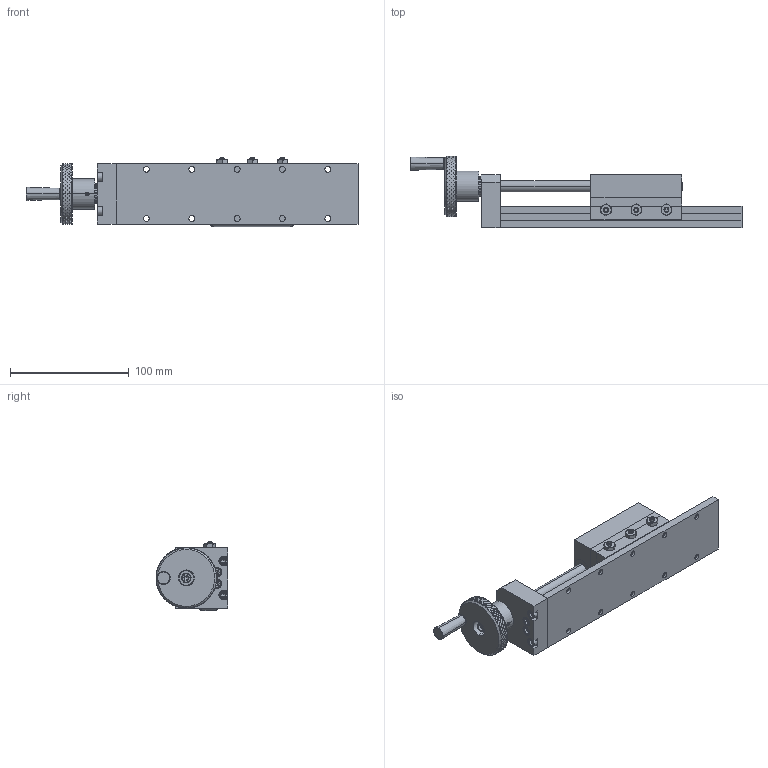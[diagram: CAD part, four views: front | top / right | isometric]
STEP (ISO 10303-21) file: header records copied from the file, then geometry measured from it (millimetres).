
FILE_DESCRIPTION (( 'STEP AP214' ), '1' );
FILE_NAME ('SW02-SL03-BL08-LS.STEP', '2011-11-04T18:56:43', ( '' ), ( '' ), 'SwSTEP 2.0', 'SolidWorks 2011', '' );
FILE_SCHEMA (( 'AUTOMOTIVE_DESIGN' ));
Length unit declared in the file: inch
Products named in the file (25): 64425K71; 6121K94; 7806K62; Gen2 End Plate_02 EPLATE; socket head cap screw_ai_HX-SHCS 0.19-32x0.5x0.5-N; EW-10; Lead Screw_3_8-12 x 05.75 Lg; spring pin slotted_ai_SPS 0.125x0.75; Lead Nut_3_8-12; socket head cap screw_ai_HX-SHCS 0.164-32x0.75x0.75-N; Gen2 Nut Plate_02x03 NPLATE; Gen2 SLIDE_SW02-SL03-BL08; Gen2 SADDLE_02x03 SADDLE; machine screw nut hex_ai_MSHXNUT 0.164-32-D-N; socket set screw cup point_ai_SSCUPSKT 0.164-32x0.625-HX-N; Tag; Gen2 Bar_02x03 BAR; Gen2 Adj Gib_02x03 ADJ GIB; Gen2 Gib_02x03 GIB; Gen2 Top plate_02x03 TPLATE; Gen2 BASE_02x08 BASE; Gen2 Hardplate_02x08 HPLATE; Gen2 Baseplate_02x08 BASE; SW02-SL03-BL08-LS; spring pin slotted_ai_SPS 0.125x1
Assembly tree (38 placements, depth 4):
  SW02-SL03-BL08-LS
    spring pin slotted_ai_SPS 0.125x1
    socket head cap screw_ai_HX-SHCS 0.164-32x0.75x0.75-N  x8
    64425K71
    Gen2 End Plate_02 EPLATE
    socket head cap screw_ai_HX-SHCS 0.19-32x0.5x0.5-N  x2
    spring pin slotted_ai_SPS 0.125x0.75
    Gen2 Nut Plate_02x03 NPLATE
    Gen2 SLIDE_SW02-SL03-BL08
      Gen2 SADDLE_02x03 SADDLE
        socket set screw cup point_ai_SSCUPSKT 0.164-32x0.625-HX-N  x3
        machine screw nut hex_ai_MSHXNUT 0.164-32-D-N  x3
        Gen2 Top plate_02x03 TPLATE
        Tag
        Gen2 Bar_02x03 BAR
        Gen2 Adj Gib_02x03 ADJ GIB
        Gen2 Gib_02x03 GIB
      Gen2 BASE_02x08 BASE
        Gen2 Baseplate_02x08 BASE
        Gen2 Hardplate_02x08 HPLATE
    Lead Nut_3_8-12
    7806K62  x2
    Lead Screw_3_8-12 x 05.75 Lg
    EW-10  x2
    6121K94
Bounding box: 279.05 x 60.33 x 58.05 mm (x, y, z)
Volume: 308307.9 mm3; surface area: 126315.3 mm2
Topology: 56 solids, 56 shells, 2438 faces, 6275 edges, 4048 vertices
Faces by surface type: plane 1702, cylinder 437, cone 169, torus 72, sphere 48, bspline 10
Entity records: 67765 total; most frequent: CARTESIAN_POINT 21604, ORIENTED_EDGE 10650, DIRECTION 7992, EDGE_CURVE 5325, VERTEX_POINT 3510, AXIS2_PLACEMENT_3D 3018, EDGE_LOOP 2333, ADVANCED_FACE 2062
